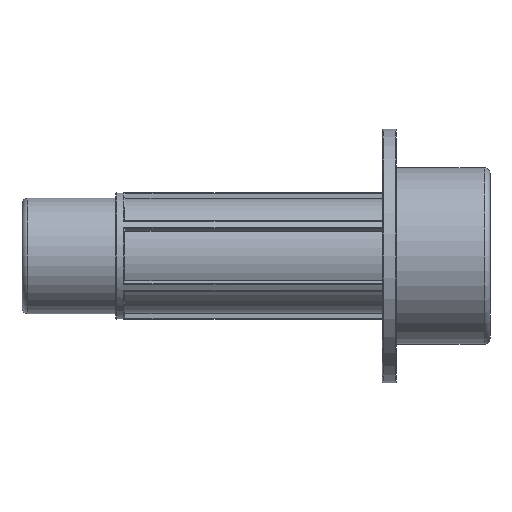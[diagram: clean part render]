
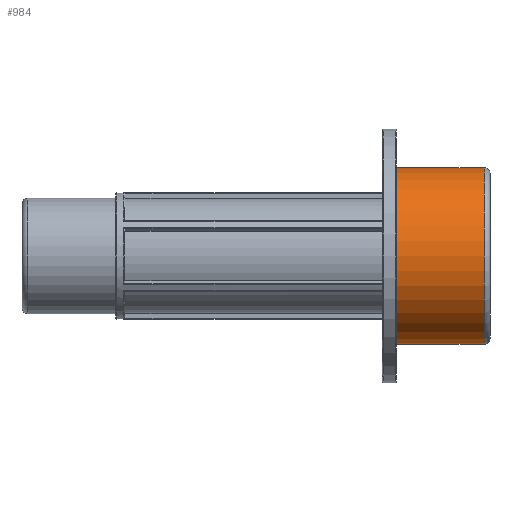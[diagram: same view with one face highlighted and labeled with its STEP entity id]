
A CAD part, front view. The second image highlights one B-rep face of the part: STEP entity #984.
In plain terms, the highlighted cylindrical face has radius 16 mm (diameter 32 mm), a full revolution.
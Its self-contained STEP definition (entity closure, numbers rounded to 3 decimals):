
#201=CYLINDRICAL_SURFACE('',#1095,16.);
#214=FACE_BOUND('',#337,.T.);
#270=FACE_OUTER_BOUND('',#336,.T.);
#336=EDGE_LOOP('',(#907));
#337=EDGE_LOOP('',(#908));
#394=CIRCLE('',#1074,16.);
#399=CIRCLE('',#1093,16.);
#492=VERTEX_POINT('',#1831);
#497=VERTEX_POINT('',#1863);
#624=EDGE_CURVE('',#492,#492,#394,.T.);
#637=EDGE_CURVE('',#497,#497,#399,.T.);
#907=ORIENTED_EDGE('',*,*,#624,.T.);
#908=ORIENTED_EDGE('',*,*,#637,.F.);
#984=ADVANCED_FACE('',(#270,#214),#201,.T.);
#1074=AXIS2_PLACEMENT_3D('',#1832,#1322,#1323);
#1093=AXIS2_PLACEMENT_3D('',#1864,#1368,#1369);
#1095=AXIS2_PLACEMENT_3D('',#1867,#1372,#1373);
#1322=DIRECTION('center_axis',(1.,0.,0.));
#1323=DIRECTION('ref_axis',(0.,0.,-1.));
#1368=DIRECTION('center_axis',(1.,0.,0.));
#1369=DIRECTION('ref_axis',(0.,-1.,0.));
#1372=DIRECTION('center_axis',(1.,0.,0.));
#1373=DIRECTION('ref_axis',(0.,1.,0.));
#1831=CARTESIAN_POINT('',(-17.,16.,0.));
#1832=CARTESIAN_POINT('Origin',(-17.,0.,0.));
#1863=CARTESIAN_POINT('',(-1.048,16.,0.));
#1864=CARTESIAN_POINT('Origin',(-1.048,0.,0.));
#1867=CARTESIAN_POINT('Origin',(-8.5,0.,
0.));
